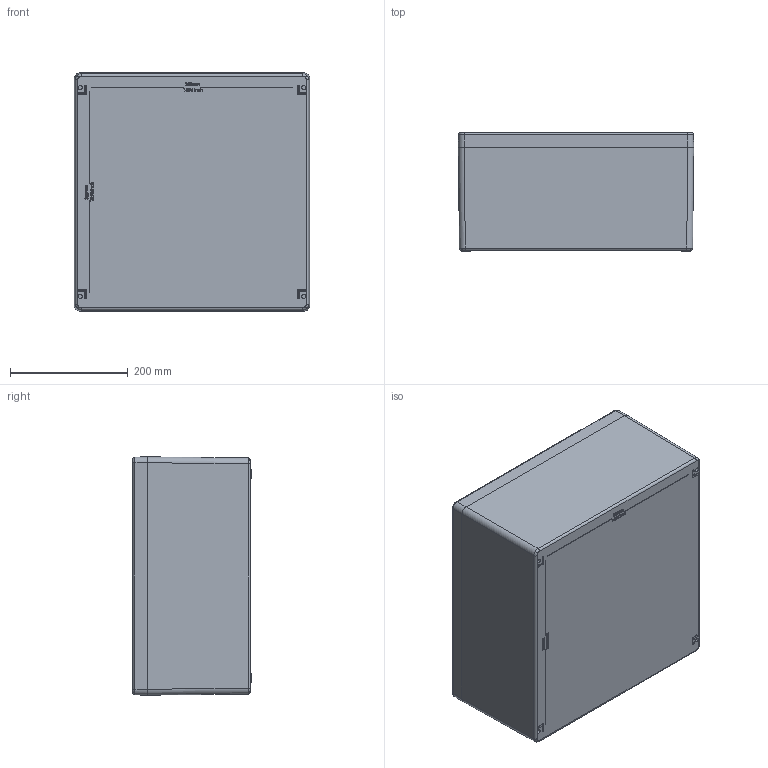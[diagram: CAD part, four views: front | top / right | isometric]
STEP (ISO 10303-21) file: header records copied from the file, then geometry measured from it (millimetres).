
FILE_DESCRIPTION (( 'STEP AP203' ), '1' );
FILE_NAME ('GRP ASSY 400405200.STEP', '2024-08-26T11:14:52', ( '' ), ( '' ), 'SwSTEP 2.0', 'SolidWorks 2018', '' );
FILE_SCHEMA (( 'CONFIG_CONTROL_DESIGN' ));
Length unit declared in the file: millimetre
Products named in the file (5): GRP ASSY 400405200; GRP LID 400405200; GRP BASE 400405200; M6 SS TOP INSERT; M6 BOTTOM INSERT
Assembly tree (12 placements, depth 2):
  GRP ASSY 400405200
    GRP BASE 400405200
    M6 SS TOP INSERT  x4
    M6 BOTTOM INSERT  x6
    GRP LID 400405200
Bounding box: 400 x 201 x 405 mm (x, y, z)
Volume: 3868385.8 mm3; surface area: 1294013 mm2
Topology: 12 solids, 12 shells, 1517 faces, 3753 edges, 2274 vertices
Faces by surface type: plane 459, bspline 404, cylinder 296, cone 196, torus 106, sphere 56
Entity records: 54088 total; most frequent: CARTESIAN_POINT 27576, ORIENTED_EDGE 5818, DIRECTION 4599, EDGE_CURVE 2909, VERTEX_POINT 1794, AXIS2_PLACEMENT_3D 1649, VECTOR 1301, LINE 1301
